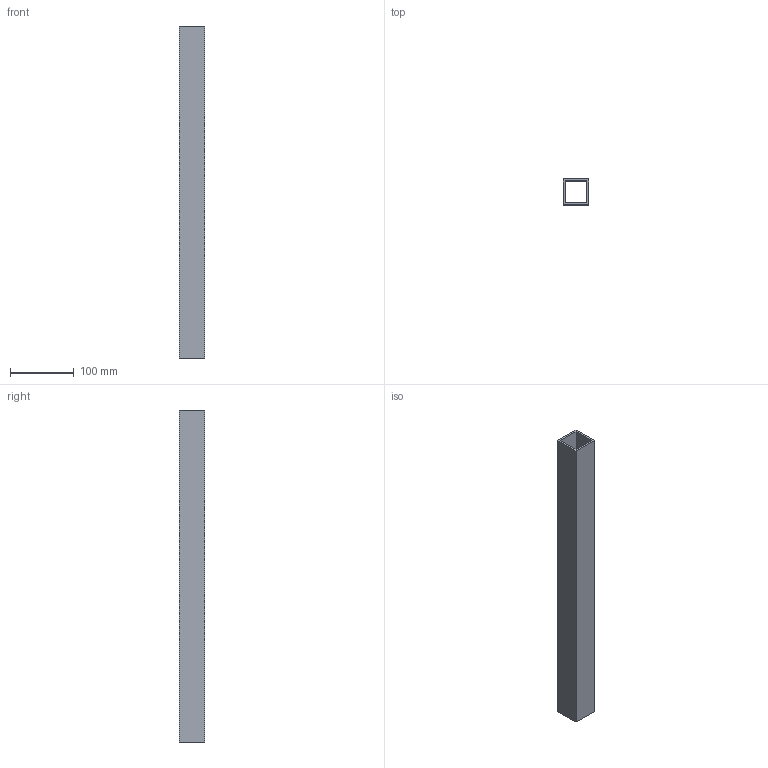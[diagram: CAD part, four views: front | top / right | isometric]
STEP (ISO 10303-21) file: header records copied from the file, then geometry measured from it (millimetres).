
FILE_DESCRIPTION(('Open CASCADE Model'),'2;1');
FILE_NAME('Open CASCADE Shape Model','2026-10-19T10:09:27',('Author'),( 'Open CASCADE'),'Open CASCADE STEP processor 8.0','Open CASCADE 8.0' ,'Unknown');
FILE_SCHEMA(('AUTOMOTIVE_DESIGN { 1 0 10303 214 1 1 1 1 }'));
Length unit declared in the file: millimetre
Products named in the file (1): AC_SHS40x40x3_L520000 183
Bounding box: 40 x 40 x 520 mm (x, y, z)
Volume: 230880 mm3; surface area: 154808 mm2
Topology: 1 solids, 1 shells, 10 faces, 24 edges, 16 vertices
Faces by surface type: plane 10
Entity records: 614 total; most frequent: CARTESIAN_POINT 99, DIRECTION 94, LINE 72, VECTOR 72, ORIENTED_EDGE 48, PCURVE 48, DEFINITIONAL_REPRESENTATION 48, EDGE_CURVE 24
